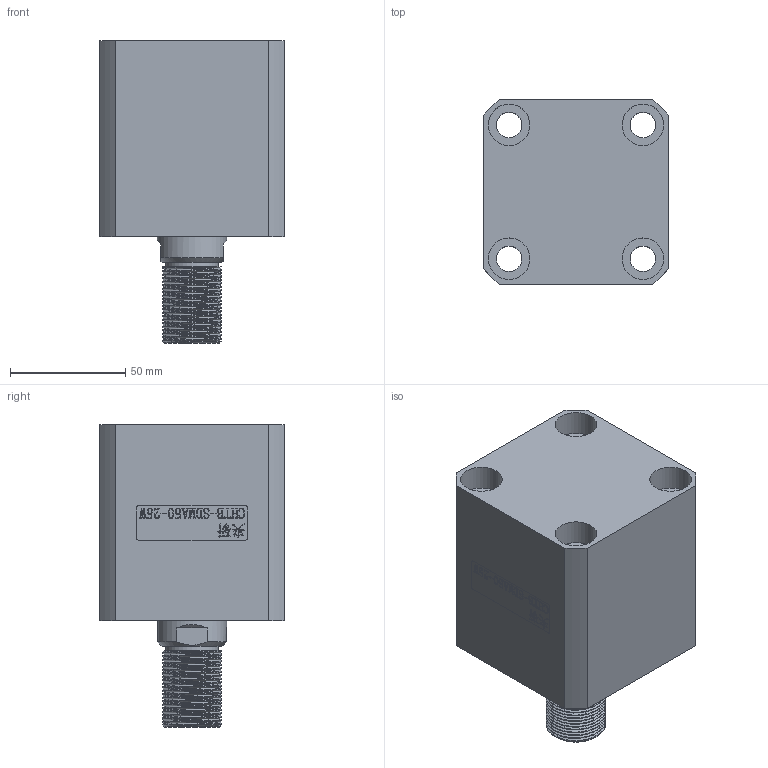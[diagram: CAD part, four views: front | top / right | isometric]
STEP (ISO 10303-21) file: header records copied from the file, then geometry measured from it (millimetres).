
FILE_DESCRIPTION(/* description */ (''),/* implementation_level */ '2;1');
FILE_NAME(/* name */ 'CHTB-SDMA50-25W.stp',/* time_stamp */ '2022-04-29T18:18:47+08:00',/* author */ (''),/* organization */ (''),/* preprocessor_version */ 'ST-DEVELOPER v16.7',/* originating_system */ 'SIEMENS PLM Software NX 12.0',/* authorisation */ '');
FILE_SCHEMA (('AUTOMOTIVE_DESIGN { 1 0 10303 214 3 1 1 1 }'));
Length unit declared in the file: millimetre
Products named in the file (1): CHTB-SDMA50-25W
Bounding box: 80 x 80 x 131 mm (x, y, z)
Volume: 477836.1 mm3; surface area: 100179.3 mm2
Topology: 5 solids, 5 shells, 517 faces, 1471 edges, 1017 vertices
Faces by surface type: plane 326, extrusion 90, cylinder 54, bspline 22, cone 14, torus 11
Full cylindrical faces by diameter (mm): 4 x6, 5 x2, 9 x2, 11 x4, 18 x8, 23 x1, 30 x2, 39 x1, 46 x1, 50 x5, 55 x8, 59 x1
Entity records: 30137 total; most frequent: CARTESIAN_POINT 15272, ORIENTED_EDGE 2788, DIRECTION 1990, EDGE_CURVE 1394, VERTEX_POINT 1003, VECTOR 966, LINE 876, EDGE_LOOP 631
